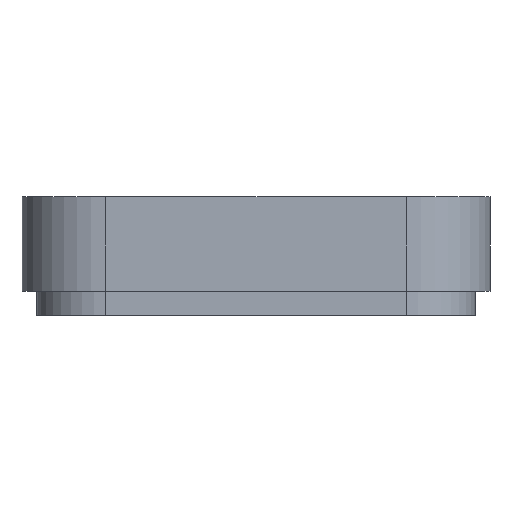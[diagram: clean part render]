
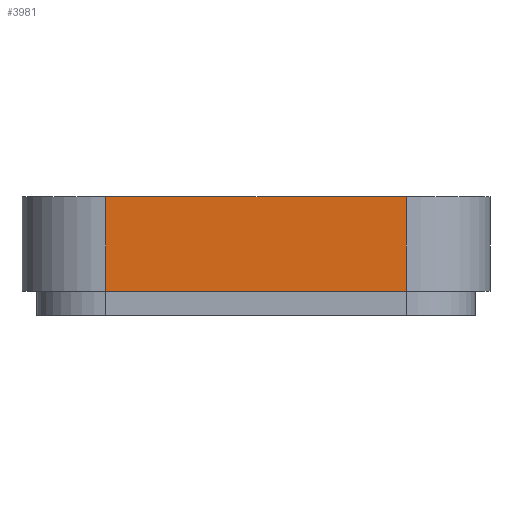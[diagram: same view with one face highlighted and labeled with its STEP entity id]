
A CAD part, front view. The second image highlights one B-rep face of the part: STEP entity #3981.
In plain terms, the highlighted planar face has unit normal (0, -1, 0).
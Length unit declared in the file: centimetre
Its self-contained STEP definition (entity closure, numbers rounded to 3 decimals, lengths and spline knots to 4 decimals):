
#327=LINE('',#5285,#670);
#332=LINE('',#5303,#675);
#411=LINE('',#5847,#754);
#421=LINE('',#5875,#764);
#670=VECTOR('',#4456,100.);
#675=VECTOR('',#4471,100.);
#754=VECTOR('',#4672,100.);
#764=VECTOR('',#4702,100.);
#1279=ORIENTED_EDGE('',*,*,#2469,.T.);
#1280=ORIENTED_EDGE('',*,*,#2259,.T.);
#1281=ORIENTED_EDGE('',*,*,#2483,.F.);
#1282=ORIENTED_EDGE('',*,*,#2268,.F.);
#2259=EDGE_CURVE('',#2874,#2880,#327,.T.);
#2268=EDGE_CURVE('',#2889,#2890,#332,.T.);
#2469=EDGE_CURVE('',#2889,#2874,#411,.F.);
#2483=EDGE_CURVE('',#2890,#2880,#421,.T.);
#2874=VERTEX_POINT('',#5272);
#2880=VERTEX_POINT('',#5284);
#2889=VERTEX_POINT('',#5304);
#2890=VERTEX_POINT('',#5305);
#3423=EDGE_LOOP('',(#1279,#1280,#1281,#1282));
#3666=FACE_BOUND('',#3423,.T.);
#3887=PLANE('',#4281);
#3981=ADVANCED_FACE('',(#3666),#3887,.F.);
#4281=AXIS2_PLACEMENT_3D('',#5876,#4703,#4704);
#4456=DIRECTION('',(1.,0.,0.));
#4471=DIRECTION('',(1.,0.,0.));
#4672=DIRECTION('',(0.,0.,1.));
#4702=DIRECTION('',(0.,0.,-1.));
#4703=DIRECTION('',(0.,1.,0.));
#4704=DIRECTION('',(0.,0.,1.));
#5272=CARTESIAN_POINT('',(-0.939,-1.3856,0.));
#5284=CARTESIAN_POINT('',(0.94,-1.3856,0.));
#5285=CARTESIAN_POINT('',(0.0005,-1.3856,0.));
#5303=CARTESIAN_POINT('',(0.0005,-1.3856,0.59));
#5304=CARTESIAN_POINT('',(-0.939,-1.3856,0.59));
#5305=CARTESIAN_POINT('',(0.94,-1.3856,0.59));
#5847=CARTESIAN_POINT('',(-0.939,-1.3856,0.43));
#5875=CARTESIAN_POINT('',(0.94,-1.3856,0.43));
#5876=CARTESIAN_POINT('',(0.0005,-1.3856,0.43));
